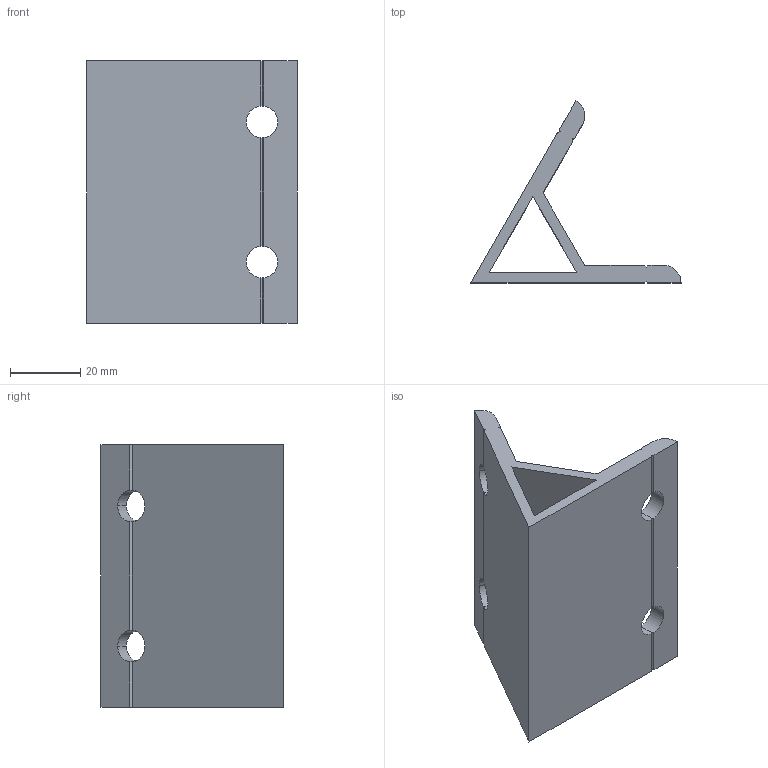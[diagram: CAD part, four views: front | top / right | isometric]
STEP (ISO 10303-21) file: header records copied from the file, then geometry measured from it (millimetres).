
FILE_DESCRIPTION (( 'STEP AP203' ), '1' );
FILE_NAME ('WA7560-8.STEP', '2024-02-19T06:16:42', ( '' ), ( '' ), 'SwSTEP 2.0', 'SolidWorks 2022', '' );
FILE_SCHEMA (( 'CONFIG_CONTROL_DESIGN' ));
Length unit declared in the file: millimetre
Products named in the file (1): WA7560-8
Bounding box: 60 x 51.96 x 75 mm (x, y, z)
Volume: 37786.6 mm3; surface area: 22153.8 mm2
Topology: 1 solids, 1 shells, 49 faces, 157 edges, 102 vertices
Faces by surface type: plane 38, cylinder 11
Entity records: 1814 total; most frequent: CARTESIAN_POINT 405, ORIENTED_EDGE 314, DIRECTION 255, EDGE_CURVE 157, VERTEX_POINT 102, LINE 95, VECTOR 95, AXIS2_PLACEMENT_3D 80
